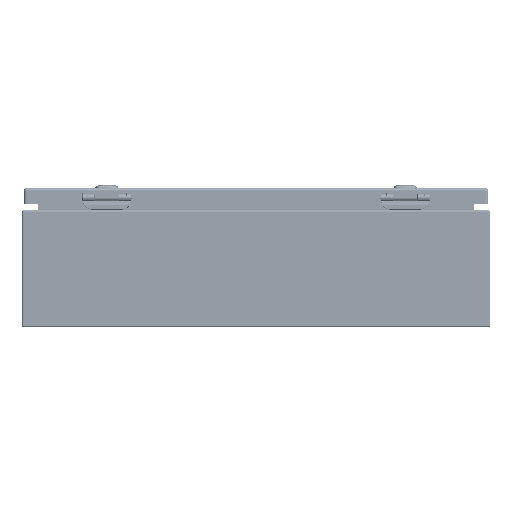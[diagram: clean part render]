
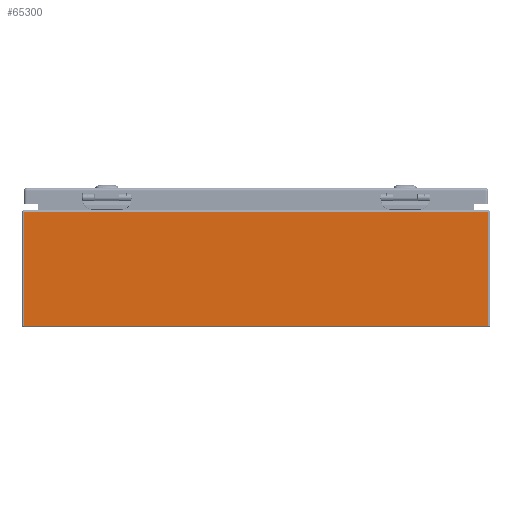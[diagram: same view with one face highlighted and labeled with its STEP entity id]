
A CAD part, left-side view. The second image highlights one B-rep face of the part: STEP entity #65300.
In plain terms, the highlighted planar face has unit normal (-1, 0, 0).
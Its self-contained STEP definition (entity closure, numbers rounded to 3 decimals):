
#6339=LINE('',#91465,#10376);
#6350=LINE('',#91506,#10387);
#6354=LINE('',#91521,#10391);
#6355=LINE('',#91522,#10392);
#10376=VECTOR('',#76008,0.394);
#10387=VECTOR('',#76057,0.394);
#10391=VECTOR('',#76075,0.394);
#10392=VECTOR('',#76076,0.394);
#15456=FACE_OUTER_BOUND('',#19466,.T.);
#19466=EDGE_LOOP('',(#43439,#43440,#43441,#43442));
#26175=VERTEX_POINT('',#91458);
#26176=VERTEX_POINT('',#91463);
#26187=VERTEX_POINT('',#91505);
#26191=VERTEX_POINT('',#91520);
#32848=EDGE_CURVE('',#26176,#26175,#6339,.T.);
#32868=EDGE_CURVE('',#26175,#26187,#6350,.T.);
#32876=EDGE_CURVE('',#26191,#26176,#6354,.T.);
#32877=EDGE_CURVE('',#26191,#26187,#6355,.T.);
#43439=ORIENTED_EDGE('',*,*,#32848,.F.);
#43440=ORIENTED_EDGE('',*,*,#32876,.F.);
#43441=ORIENTED_EDGE('',*,*,#32877,.T.);
#43442=ORIENTED_EDGE('',*,*,#32868,.F.);
#63904=PLANE('',#70205);
#65300=ADVANCED_FACE('',(#15456),#63904,.F.);
#70205=AXIS2_PLACEMENT_3D('',#91519,#76073,#76074);
#76008=DIRECTION('',(0.,-1.,0.));
#76057=DIRECTION('',(0.,0.,-1.));
#76073=DIRECTION('center_axis',(1.,0.,0.));
#76074=DIRECTION('ref_axis',(0.,0.,-1.));
#76075=DIRECTION('',(0.,0.,1.));
#76076=DIRECTION('',(0.,-1.,0.));
#91458=CARTESIAN_POINT('',(-12.,-11.916,5.916));
#91463=CARTESIAN_POINT('',(-12.,11.916,5.916));
#91465=CARTESIAN_POINT('',(-12.,-5.979,5.916));
#91505=CARTESIAN_POINT('',(-12.,-11.916,0.084));
#91506=CARTESIAN_POINT('',(-12.,-11.916,3.));
#91519=CARTESIAN_POINT('Origin',(-12.,0.,3.));
#91520=CARTESIAN_POINT('',(-12.,11.916,0.084));
#91521=CARTESIAN_POINT('',(-12.,11.916,3.));
#91522=CARTESIAN_POINT('',(-12.,6.,0.084));
